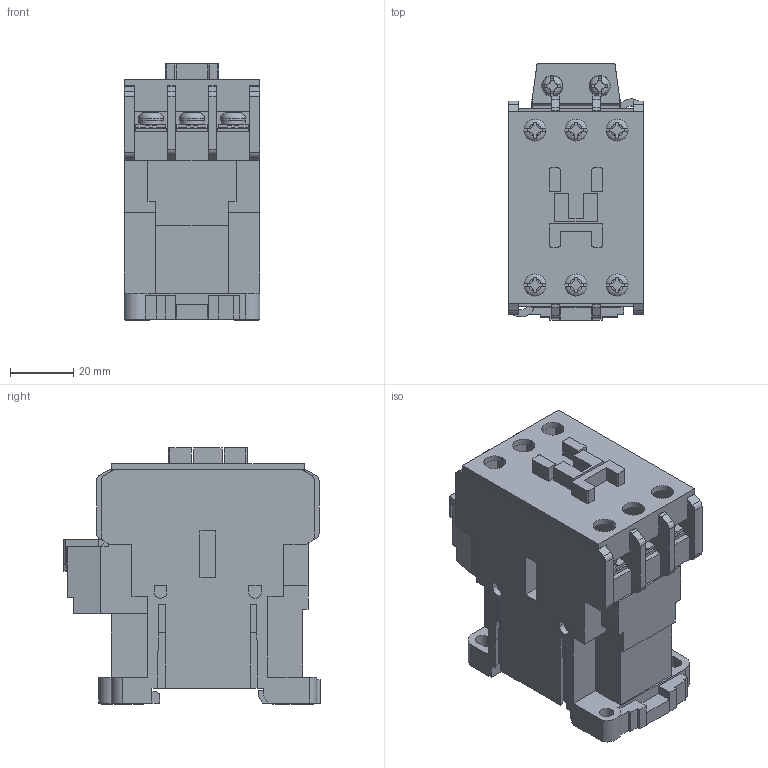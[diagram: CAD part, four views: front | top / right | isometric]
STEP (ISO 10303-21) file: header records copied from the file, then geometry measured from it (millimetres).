
FILE_DESCRIPTION (( 'STEP AP214' ), '1' );
FILE_NAME ('SC-E02.STEP', '2015-09-14T07:57:53', ( '川崎工場' ), ( '富士電機株式会社' ), 'SwSTEP 2.0', 'SolidWorks 2014', '' );
FILE_SCHEMA (( 'AUTOMOTIVE_DESIGN' ));
Length unit declared in the file: millimetre
Products named in the file (14): SC-E02-Coil plate band; Plate_M3P5_7P6; SC-E02_Case cover; Screw M4 set^SC-E02; SC-E02_terminal cover_Coil side; SC-E02-Main plate band; Plate_M4_9P5-9P5 flat; Screw M3P5 set^SC-E02; SC-E02_Case; Springwasher_M4; Springwasher_M3P5; Screw_M4_L8; Screw_M3.5_L7; SC-E02
Assembly tree (22 placements, depth 3):
  SC-E02
    SC-E02_Case
    SC-E02-Main plate band  x3
    SC-E02-Coil plate band  x2
    Screw M4 set^SC-E02  x6
      Screw_M4_L8
      Springwasher_M4
      Plate_M4_9P5-9P5 flat
    Screw M3P5 set^SC-E02  x2
      Plate_M3P5_7P6
      Screw_M3.5_L7
      Springwasher_M3P5
    SC-E02_terminal cover_Coil side
    SC-E02_Case cover
Bounding box: 43 x 81 x 81 mm (x, y, z)
Volume: 164016.5 mm3; surface area: 51132.4 mm2
Topology: 32 solids, 32 shells, 1323 faces, 3682 edges, 2434 vertices
Faces by surface type: plane 1136, cylinder 163, cone 16, torus 8
Full cylindrical faces by diameter (mm): 1.6 x1, 3.5 x8, 4 x24, 4.5 x2, 6.7 x2, 7 x6, 7.1 x2
Entity records: 23142 total; most frequent: CARTESIAN_POINT 4215, ORIENTED_EDGE 3872, DIRECTION 3638, EDGE_CURVE 1936, VECTOR 1630, LINE 1630, VERTEX_POINT 1297, AXIS2_PLACEMENT_3D 1004
